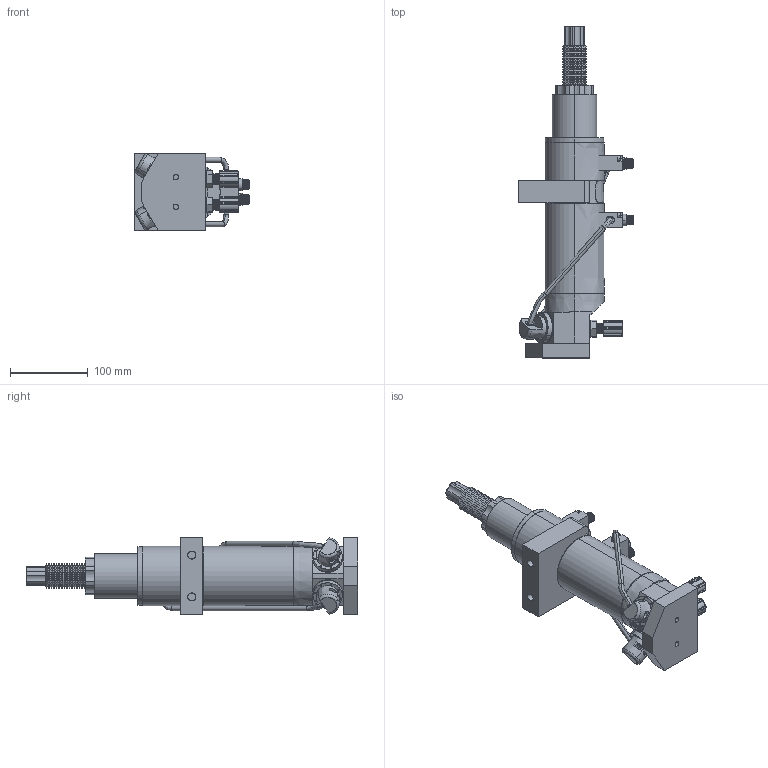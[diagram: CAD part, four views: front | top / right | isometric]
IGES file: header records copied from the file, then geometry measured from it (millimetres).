
Start section: SolidWorks IGES file using analytic representation for surfaces
Global section: file name: S:\Engineer\SW Files\R and D\Karen\P&G\PPM100.IGS; native system: SolidWorks 2012; preprocessor: SolidWorks 2012; author: karen.bodily; date: 140627.091211; units: inch
Bounding box: 147.84 x 427.88 x 100.08 mm (x, y, z)
Surface area: 193331.4 mm2 (no closed solid volume)
Topology: 0 solids, 0 shells, 2155 faces, 26509 edges, 26501 vertices
Faces by surface type: bspline 1284, revolution 871
